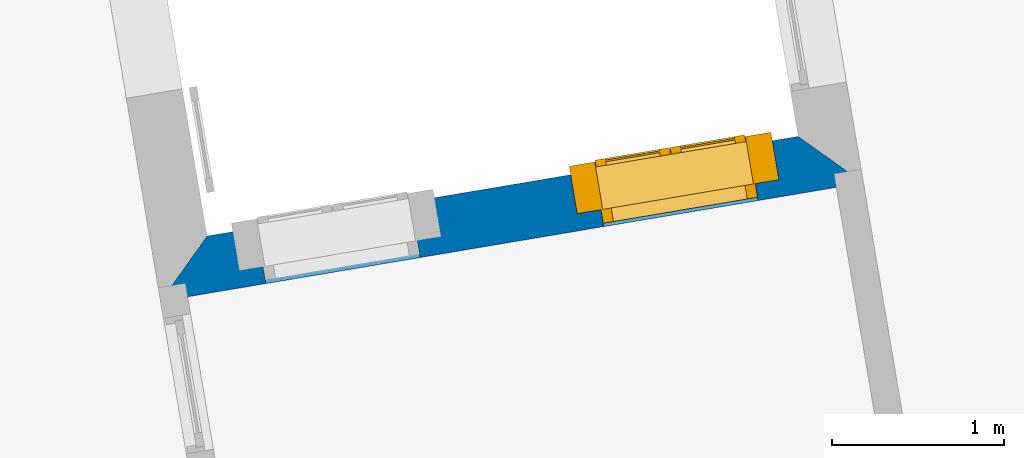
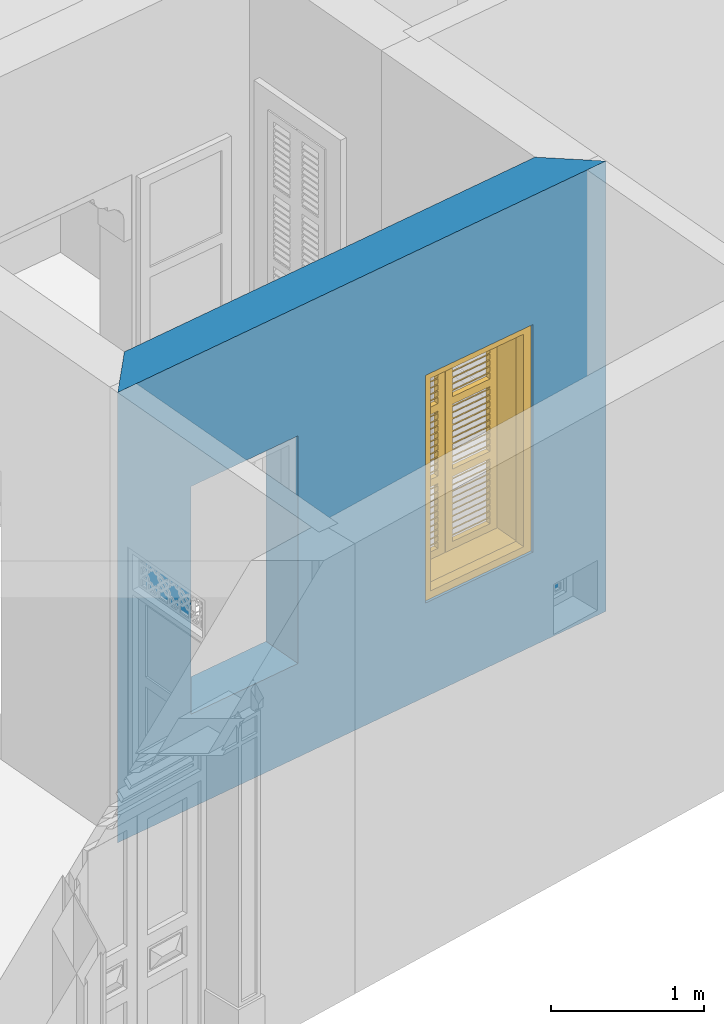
# One storey, part 6 of 15: 1 wall, 1 window, 2 openings.
"""IFC4 building model written with IfcOpenShell, lengths in metres."""

from ifc_helpers import new_model, si_unit, frame, origin, origin_with_axes, place, context, subcontext, project, spatial, polyline, outline, extrude, faceted_brep, source, transform, mapped, material, layer, layer_set, layer_usage, type_object, type_shapes, element, fill, save


model = new_model("IFC4")

# Units and contexts
model_context = context("Model", 3, world=origin_with_axes())
body_context = subcontext(model_context, "Body", "Model", "MODEL_VIEW")
ifc_project = project(units=[si_unit("PLANEANGLEUNIT", "RADIAN"), si_unit("MASSUNIT", "GRAM", prefix="KILO"), si_unit("FORCEUNIT", "NEWTON", prefix="KILO"), si_unit("LENGTHUNIT", "METRE"), si_unit("AREAUNIT", "SQUARE_METRE"), si_unit("VOLUMEUNIT", "CUBIC_METRE")], contexts=[model_context, model_context])

# Site, building, storey
site_placement = place(None, origin_with_axes())
site = spatial("IfcSite", under=ifc_project, at=site_placement, Name="Site plot-6", CompositionType="ELEMENT")
building_placement = place(None, origin_with_axes())
building = spatial("IfcBuilding", under=site, at=building_placement, Name="Building plot-6", CompositionType="ELEMENT")
storey_placement = place(None, origin_with_axes())
storey = spatial("IfcBuildingStorey", under=building, at=storey_placement, Name="plot-6 0", CompositionType="ELEMENT", Elevation=0.0)

# Wall, openings, window
ifc_material = material(Name="Masonry")
ifc_layer = layer(ifc_material, 0.33, ventilated=False)
ifc_layer_set = layer_set([ifc_layer], Name="exterior_0.08_0.25")
ifc_layer_usage = layer_usage(ifc_layer_set, "AXIS2", "POSITIVE", -0.25)
wall_type = type_object("IfcWallType", Name="exterior_0.08_0.25", PredefinedType="SOLIDWALL", material=ifc_layer_set)
wall_placement = place(storey_placement, frame((-2.44228456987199, -0.0610171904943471, 0.0), z_axis=(0.0, 0.0, 1.0), x_axis=(-0.986076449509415, -0.166292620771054, 0.0)))
wall = element("IfcWall", 1, at=wall_placement, inside=storey, type_object=wall_type, material=ifc_layer_usage, Name="exterior", context=body_context, shape_type="SweptSolid", body=[
    extrude(outline(polyline([(-0.0799999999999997, 0.080000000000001), (0.249999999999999, -0.250000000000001), (3.73805094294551, -0.250000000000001), (4.06805094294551, 0.0799999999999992), (-0.0799999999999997, 0.080000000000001)])), origin_with_axes(), (0.0, 0.0, 1.0), 3.6),
])
opening_1_placement = place(wall_placement, frame((0.542012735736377, 0.0, 0.75)))
opening_1 = element("IfcOpeningElement", 2, at=opening_1_placement, cuts=wall, Name="My Opening", ObjectType="Opening", context=body_context, shape_type="SweptSolid", body=[
    extrude(outline(polyline([(0.0, -0.27), (0.91, -0.27), (0.91, 1.1), (0.0, 1.1), (0.0, -0.27)])), origin_with_axes(), (0.0, 0.0, 1.0), 1.82),
])
opening_2_placement = place(wall_placement, frame((2.53603820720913, 0.0, 0.75)))
element("IfcOpeningElement", 3, at=opening_2_placement, cuts=wall, Name="My Opening", ObjectType="Opening", context=body_context, shape_type="SweptSolid", body=[
    extrude(outline(polyline([(0.0, -0.27), (0.91, -0.27), (0.91, 1.1), (4.44089209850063e-16, 1.1), (0.0, -0.27)])), origin_with_axes(), (0.0, 0.0, 1.0), 1.82),
])
window_type = type_object("IfcWindowType", Name="shuttered_big", PartitioningType="DOUBLE_PANEL_HORIZONTAL", PredefinedType="NOTDEFINED")
shared_shape = source(origin(), body_context, "Body", "Brep", [
    faceted_brep([(0.074, 0.0, 0.810667), (0.393, 0.0, 0.810667), (0.393, 0.0, 0.800667), (0.074, 0.0, 0.800667), (0.074, -0.04, 0.770667), (0.393, -0.04, 0.770667), (0.393, -0.04, 0.760667), (0.074, -0.04, 0.760667), (0.517, 0.0, 0.232), (0.836, 0.0, 0.232), (0.836, 0.0, 0.222), (0.517, 0.0, 0.222), (0.517, -0.04, 0.192), (0.836, -0.04, 0.192), (0.836, -0.04, 0.182), (0.517, -0.04, 0.182), (0.517, 0.0, 0.532), (0.836, 0.0, 0.532), (0.836, 0.0, 0.522), (0.517, 0.0, 0.522), (0.517, -0.04, 0.492), (0.836, -0.04, 0.492), (0.836, -0.04, 0.482), (0.517, -0.04, 0.482), (0.517, 0.0, 0.482), (0.836, 0.0, 0.482), (0.836, 0.0, 0.472), (0.517, 0.0, 0.472), (0.517, -0.04, 0.442), (0.836, -0.04, 0.442), (0.836, -0.04, 0.432), (0.517, -0.04, 0.432), (0.517, 0.0, 0.582), (0.836, 0.0, 0.582), (0.836, 0.0, 0.572), (0.517, 0.0, 0.572), (0.517, -0.04, 0.542), (0.836, -0.04, 0.542), (0.836, -0.04, 0.532), (0.517, -0.04, 0.532), (0.517, 0.0, 0.182), (0.836, 0.0, 0.182), (0.836, 0.0, 0.172), (0.517, 0.0, 0.172), (0.517, -0.04, 0.142), (0.836, -0.04, 0.142), (0.836, -0.04, 0.132), (0.517, -0.04, 0.132), (0.517, 0.0, 0.382), (0.836, 0.0, 0.382), (0.836, 0.0, 0.372), (0.517, 0.0, 0.372), (0.517, -0.04, 0.342), (0.836, -0.04, 0.342), (0.836, -0.04, 0.332), (0.517, -0.04, 0.332), (0.517, 0.0, 0.432), (0.836, 0.0, 0.432), (0.836, 0.0, 0.422), (0.517, 0.0, 0.422), (0.517, -0.04, 0.392), (0.836, -0.04, 0.392), (0.836, -0.04, 0.382), (0.517, -0.04, 0.382), (0.517, 0.0, 0.132), (0.836, 0.0, 0.132), (0.836, 0.0, 0.122), (0.517, 0.0, 0.122), (0.517, -0.04, 0.092), (0.836, -0.04, 0.092), (0.836, -0.04, 0.082), (0.517, -0.04, 0.082), (0.517, 0.0, 0.282), (0.836, 0.0, 0.282), (0.836, 0.0, 0.272), (0.517, 0.0, 0.272), (0.517, -0.04, 0.242), (0.836, -0.04, 0.242), (0.836, -0.04, 0.232), (0.517, -0.04, 0.232), (0.517, 0.0, 0.332), (0.836, 0.0, 0.332), (0.836, 0.0, 0.322), (0.517, 0.0, 0.322), (0.517, -0.04, 0.292), (0.836, -0.04, 0.292), (0.836, -0.04, 0.282), (0.517, -0.04, 0.282), (0.517, 0.0, 0.810667), (0.836, 0.0, 0.810667), (0.836, 0.0, 0.800667), (0.517, 0.0, 0.800667), (0.517, -0.04, 0.770667), (0.836, -0.04, 0.770667), (0.836, -0.04, 0.760667), (0.517, -0.04, 0.760667), (0.517, 0.0, 1.110667), (0.836, 0.0, 1.110667), (0.836, 0.0, 1.100667), (0.517, 0.0, 1.100667), (0.517, -0.04, 1.070667), (0.836, -0.04, 1.070667), (0.836, -0.04, 1.060667), (0.517, -0.04, 1.060667), (0.517, 0.0, 1.060667), (0.836, 0.0, 1.060667), (0.836, 0.0, 1.050667), (0.517, 0.0, 1.050667), (0.517, -0.04, 1.020667), (0.836, -0.04, 1.020667), (0.836, -0.04, 1.010667), (0.517, -0.04, 1.010667), (0.517, 0.0, 1.160667), (0.836, 0.0, 1.160667), (0.836, 0.0, 1.150667), (0.517, 0.0, 1.150667), (0.517, -0.04, 1.120667), (0.836, -0.04, 1.120667), (0.836, -0.04, 1.110667), (0.517, -0.04, 1.110667), (0.517, 0.0, 0.760667), (0.836, 0.0, 0.760667), (0.836, 0.0, 0.750667), (0.517, 0.0, 0.750667), (0.517, -0.04, 0.720667), (0.836, -0.04, 0.720667), (0.836, -0.04, 0.710667), (0.517, -0.04, 0.710667), (0.517, 0.0, 0.960667), (0.836, 0.0, 0.960667), (0.836, 0.0, 0.950667), (0.517, 0.0, 0.950667), (0.517, -0.04, 0.920667), (0.836, -0.04, 0.920667), (0.836, -0.04, 0.910667), (0.517, -0.04, 0.910667), (0.517, 0.0, 1.010667), (0.836, 0.0, 1.010667), (0.836, 0.0, 1.0), (0.517, 0.0, 1.0), (0.517, -0.04, 0.970667), (0.836, -0.04, 0.970667), (0.836, -0.04, 0.960667), (0.517, -0.04, 0.960667), (0.517, 0.0, 0.710667), (0.836, 0.0, 0.710667), (0.836, 0.0, 0.700667), (0.517, 0.0, 0.700667), (0.517, -0.04, 0.670667), (0.836, -0.04, 0.670667), (0.836, -0.04, 0.660667), (0.517, -0.04, 0.660667), (0.517, 0.0, 0.860667), (0.836, 0.0, 0.860667), (0.836, 0.0, 0.850667), (0.517, 0.0, 0.850667), (0.517, -0.04, 0.820667), (0.836, -0.04, 0.820667), (0.836, -0.04, 0.810667), (0.517, -0.04, 0.810667), (0.517, 0.0, 0.910667), (0.836, 0.0, 0.910667), (0.836, 0.0, 0.900667), (0.517, 0.0, 0.900667), (0.517, -0.04, 0.870667), (0.836, -0.04, 0.870667), (0.836, -0.04, 0.860667), (0.517, -0.04, 0.860667), (0.517, 0.0, 1.389333), (0.836, 0.0, 1.389333), (0.836, 0.0, 1.379333), (0.517, 0.0, 1.379333), (0.517, -0.04, 1.349333), (0.836, -0.04, 1.349333), (0.836, -0.04, 1.339333), (0.517, -0.04, 1.339333), (0.517, 0.0, 1.689333), (0.836, 0.0, 1.689333), (0.836, 0.0, 1.679333), (0.517, 0.0, 1.679333), (0.517, -0.04, 1.649333), (0.836, -0.04, 1.649333), (0.836, -0.04, 1.639333), (0.517, -0.04, 1.639333), (0.517, 0.0, 1.639333), (0.836, 0.0, 1.639333), (0.836, 0.0, 1.629333), (0.517, 0.0, 1.629333), (0.517, -0.04, 1.599333), (0.836, -0.04, 1.599333), (0.836, -0.04, 1.589333), (0.517, -0.04, 1.589333), (0.517, 0.0, 1.739333), (0.836, 0.0, 1.739333), (0.836, 0.0, 1.729333), (0.517, 0.0, 1.729333), (0.517, -0.04, 1.699333), (0.836, -0.04, 1.699333), (0.836, -0.04, 1.689333), (0.517, -0.04, 1.689333), (0.517, 0.0, 1.339333), (0.836, 0.0, 1.339333), (0.836, 0.0, 1.329333), (0.517, 0.0, 1.329333), (0.517, -0.04, 1.299333), (0.836, -0.04, 1.299333), (0.836, -0.04, 1.289333), (0.517, -0.04, 1.289333), (0.517, 0.0, 1.539333), (0.836, 0.0, 1.539333), (0.836, 0.0, 1.529333), (0.517, 0.0, 1.529333), (0.517, -0.04, 1.499333), (0.836, -0.04, 1.499333), (0.836, -0.04, 1.489333), (0.517, -0.04, 1.489333), (0.517, 0.0, 1.589333), (0.836, 0.0, 1.589333), (0.836, 0.0, 1.579333), (0.517, 0.0, 1.579333), (0.517, -0.04, 1.549333), (0.836, -0.04, 1.549333), (0.836, -0.04, 1.539333), (0.517, -0.04, 1.539333), (0.517, 0.0, 1.289333), (0.836, 0.0, 1.289333), (0.836, 0.0, 1.279333), (0.517, 0.0, 1.279333), (0.517, -0.04, 1.249333), (0.836, -0.04, 1.249333), (0.836, -0.04, 1.239333), (0.517, -0.04, 1.239333), (0.517, 0.0, 1.439333), (0.836, 0.0, 1.439333), (0.836, 0.0, 1.429333), (0.517, 0.0, 1.429333), (0.517, -0.04, 1.399333), (0.836, -0.04, 1.399333), (0.836, -0.04, 1.389333), (0.517, -0.04, 1.389333), (0.517, 0.0, 1.489333), (0.836, 0.0, 1.489333), (0.836, 0.0, 1.479333), (0.517, 0.0, 1.479333), (0.517, -0.04, 1.449333), (0.836, -0.04, 1.449333), (0.836, -0.04, 1.439333), (0.517, -0.04, 1.439333), (0.074, 0.0, 0.232), (0.393, 0.0, 0.232), (0.393, 0.0, 0.222), (0.074, 0.0, 0.222), (0.074, -0.04, 0.192), (0.393, -0.04, 0.192), (0.393, -0.04, 0.182), (0.074, -0.04, 0.182), (0.074, 0.0, 0.532), (0.393, 0.0, 0.532), (0.393, 0.0, 0.522), (0.074, 0.0, 0.522), (0.074, -0.04, 0.492), (0.393, -0.04, 0.492), (0.393, -0.04, 0.482), (0.074, -0.04, 0.482), (0.074, 0.0, 0.482), (0.393, 0.0, 0.482), (0.393, 0.0, 0.472), (0.074, 0.0, 0.472), (0.074, -0.04, 0.442), (0.393, -0.04, 0.442), (0.393, -0.04, 0.432), (0.074, -0.04, 0.432), (0.074, 0.0, 0.582), (0.393, 0.0, 0.582), (0.393, 0.0, 0.572), (0.074, 0.0, 0.572), (0.074, -0.04, 0.542), (0.393, -0.04, 0.542), (0.393, -0.04, 0.532), (0.074, -0.04, 0.532), (0.074, 0.0, 0.182), (0.393, 0.0, 0.182), (0.393, 0.0, 0.172), (0.074, 0.0, 0.172), (0.074, -0.04, 0.142), (0.393, -0.04, 0.142), (0.393, -0.04, 0.132), (0.074, -0.04, 0.132), (0.074, 0.0, 0.382), (0.393, 0.0, 0.382), (0.393, 0.0, 0.372), (0.074, 0.0, 0.372), (0.074, -0.04, 0.342), (0.393, -0.04, 0.342), (0.393, -0.04, 0.332), (0.074, -0.04, 0.332), (0.074, 0.0, 0.432), (0.393, 0.0, 0.432), (0.393, 0.0, 0.422), (0.074, 0.0, 0.422), (0.074, -0.04, 0.392), (0.393, -0.04, 0.392), (0.393, -0.04, 0.382), (0.074, -0.04, 0.382), (0.074, 0.0, 0.132), (0.393, 0.0, 0.132), (0.393, 0.0, 0.122), (0.074, 0.0, 0.122), (0.074, -0.04, 0.092), (0.393, -0.04, 0.092), (0.393, -0.04, 0.082), (0.074, -0.04, 0.082), (0.074, 0.0, 0.282), (0.393, 0.0, 0.282), (0.393, 0.0, 0.272), (0.074, 0.0, 0.272), (0.074, -0.04, 0.242), (0.393, -0.04, 0.242), (0.393, -0.04, 0.232), (0.074, -0.04, 0.232), (0.074, 0.0, 0.332), (0.393, 0.0, 0.332), (0.393, 0.0, 0.322), (0.074, 0.0, 0.322), (0.074, -0.04, 0.292), (0.393, -0.04, 0.292), (0.393, -0.04, 0.282), (0.074, -0.04, 0.282), (0.074, 0.0, 1.110667), (0.393, 0.0, 1.110667), (0.393, 0.0, 1.100667), (0.074, 0.0, 1.100667), (0.074, -0.04, 1.070667), (0.393, -0.04, 1.070667), (0.393, -0.04, 1.060667), (0.074, -0.04, 1.060667), (0.074, 0.0, 1.060667), (0.393, 0.0, 1.060667), (0.393, 0.0, 1.050667), (0.074, 0.0, 1.050667), (0.074, -0.04, 1.020667), (0.393, -0.04, 1.020667), (0.393, -0.04, 1.010667), (0.074, -0.04, 1.010667), (0.074, 0.0, 1.160667), (0.393, 0.0, 1.160667), (0.393, 0.0, 1.150667), (0.074, 0.0, 1.150667), (0.074, -0.04, 1.120667), (0.393, -0.04, 1.120667), (0.393, -0.04, 1.110667), (0.074, -0.04, 1.110667), (0.074, 0.0, 0.760667), (0.393, 0.0, 0.760667), (0.393, 0.0, 0.750667), (0.074, 0.0, 0.750667), (0.074, -0.04, 0.720667), (0.393, -0.04, 0.720667), (0.393, -0.04, 0.710667), (0.074, -0.04, 0.710667), (0.074, 0.0, 0.960667), (0.393, 0.0, 0.960667), (0.393, 0.0, 0.950667), (0.074, 0.0, 0.950667), (0.074, -0.04, 0.920667), (0.393, -0.04, 0.920667), (0.393, -0.04, 0.910667), (0.074, -0.04, 0.910667), (0.074, 0.0, 1.010667), (0.393, 0.0, 1.010667), (0.393, 0.0, 1.0), (0.074, 0.0, 1.0), (0.074, -0.04, 0.970667), (0.393, -0.04, 0.970667), (0.393, -0.04, 0.960667), (0.074, -0.04, 0.960667), (0.074, 0.0, 0.710667), (0.393, 0.0, 0.710667), (0.393, 0.0, 0.700667), (0.074, 0.0, 0.700667), (0.074, -0.04, 0.670667), (0.393, -0.04, 0.670667), (0.393, -0.04, 0.660667), (0.074, -0.04, 0.660667), (0.074, 0.0, 0.860667), (0.393, 0.0, 0.860667), (0.393, 0.0, 0.850667), (0.074, 0.0, 0.850667), (0.074, -0.04, 0.820667), (0.393, -0.04, 0.820667), (0.393, -0.04, 0.810667), (0.074, -0.04, 0.810667), (0.074, 0.0, 0.910667), (0.393, 0.0, 0.910667), (0.393, 0.0, 0.900667), (0.074, 0.0, 0.900667), (0.074, -0.04, 0.870667), (0.393, -0.04, 0.870667), (0.393, -0.04, 0.860667), (0.074, -0.04, 0.860667), (0.074, 0.0, 1.389333), (0.393, 0.0, 1.389333), (0.393, 0.0, 1.379333), (0.074, 0.0, 1.379333), (0.074, -0.04, 1.349333), (0.393, -0.04, 1.349333), (0.393, -0.04, 1.339333), (0.074, -0.04, 1.339333), (0.074, 0.0, 1.689333), (0.393, 0.0, 1.689333), (0.393, 0.0, 1.679333), (0.074, 0.0, 1.679333), (0.074, -0.04, 1.649333), (0.393, -0.04, 1.649333), (0.393, -0.04, 1.639333), (0.074, -0.04, 1.639333), (0.074, 0.0, 1.639333), (0.393, 0.0, 1.639333), (0.393, 0.0, 1.629333), (0.074, 0.0, 1.629333), (0.074, -0.04, 1.599333), (0.393, -0.04, 1.599333), (0.393, -0.04, 1.589333), (0.074, -0.04, 1.589333), (0.074, 0.0, 1.739333), (0.393, 0.0, 1.739333), (0.393, 0.0, 1.729333), (0.074, 0.0, 1.729333), (0.074, -0.04, 1.699333), (0.393, -0.04, 1.699333), (0.393, -0.04, 1.689333), (0.074, -0.04, 1.689333), (0.074, 0.0, 1.339333), (0.393, 0.0, 1.339333), (0.393, 0.0, 1.329333), (0.074, 0.0, 1.329333), (0.074, -0.04, 1.299333), (0.393, -0.04, 1.299333), (0.393, -0.04, 1.289333), (0.074, -0.04, 1.289333), (0.074, 0.0, 1.539333), (0.393, 0.0, 1.539333), (0.393, 0.0, 1.529333), (0.074, 0.0, 1.529333), (0.074, -0.04, 1.499333), (0.393, -0.04, 1.499333), (0.393, -0.04, 1.489333), (0.074, -0.04, 1.489333), (0.074, 0.0, 1.589333), (0.393, 0.0, 1.589333), (0.393, 0.0, 1.579333), (0.074, 0.0, 1.579333), (0.074, -0.04, 1.549333), (0.393, -0.04, 1.549333), (0.393, -0.04, 1.539333), (0.074, -0.04, 1.539333), (0.074, 0.0, 1.289333), (0.393, 0.0, 1.289333), (0.393, 0.0, 1.279333), (0.074, 0.0, 1.279333), (0.074, -0.04, 1.249333), (0.393, -0.04, 1.249333), (0.393, -0.04, 1.239333), (0.074, -0.04, 1.239333), (0.074, 0.0, 1.439333), (0.393, 0.0, 1.439333), (0.393, 0.0, 1.429333), (0.074, 0.0, 1.429333), (0.074, -0.04, 1.399333), (0.393, -0.04, 1.399333), (0.393, -0.04, 1.389333), (0.074, -0.04, 1.389333), (0.074, 0.0, 1.489333), (0.393, 0.0, 1.489333), (0.393, 0.0, 1.479333), (0.074, 0.0, 1.479333), (0.074, -0.04, 1.449333), (0.393, -0.04, 1.449333), (0.393, -0.04, 1.439333), (0.074, -0.04, 1.439333), (0.517, -0.04, 0.072), (0.457, -0.04, 0.012), (0.896, -0.04, 0.012), (0.836, -0.04, 0.072), (0.457, -0.04, 0.590667), (0.517, -0.04, 0.590667), (0.457, 0.0, 0.012), (0.896, 0.0, 0.012), (0.836, -0.04, 0.590667), (0.896, -0.04, 0.590667), (0.836, 0.0, 0.072), (0.517, 0.0, 0.072), (0.457, 0.0, 0.590667), (0.517, 0.0, 0.590667), (0.517, -0.04, 0.650667), (0.457, -0.04, 0.650667), (0.896, 0.0, 0.590667), (0.836, 0.0, 0.590667), (0.836, -0.04, 0.650667), (0.896, -0.04, 0.650667), (0.457, 0.0, 0.650667), (0.457, -0.04, 1.169333), (0.517, -0.04, 1.169333), (0.896, 0.0, 0.650667), (0.836, -0.04, 1.169333), (0.896, -0.04, 1.169333), (0.457, 0.0, 1.169333), (0.517, 0.0, 0.650667), (0.836, 0.0, 0.650667), (0.517, 0.0, 1.169333), (0.517, -0.04, 1.229333), (0.457, -0.04, 1.229333), (0.896, 0.0, 1.169333), (0.836, 0.0, 1.169333), (0.836, -0.04, 1.229333), (0.896, -0.04, 1.229333), (0.457, 0.0, 1.229333), (0.517, -0.04, 1.748), (0.457, -0.04, 1.808), (0.896, 0.0, 1.229333), (0.896, -0.04, 1.808), (0.836, -0.04, 1.748), (0.457, 0.0, 1.808), (0.517, 0.0, 1.229333), (0.836, 0.0, 1.229333), (0.517, 0.0, 1.748), (0.896, 0.0, 1.808), (0.836, 0.0, 1.748), (0.074, -0.04, 0.072), (0.014, -0.04, 0.012), (0.453, -0.04, 0.012), (0.393, -0.04, 0.072), (0.014, -0.04, 0.590667), (0.074, -0.04, 0.590667), (0.014, 0.0, 0.012), (0.453, 0.0, 0.012), (0.393, -0.04, 0.590667), (0.453, -0.04, 0.590667), (0.393, 0.0, 0.072), (0.074, 0.0, 0.072), (0.014, 0.0, 0.590667), (0.074, 0.0, 0.590667), (0.074, -0.04, 0.650667), (0.014, -0.04, 0.650667), (0.453, 0.0, 0.590667), (0.393, 0.0, 0.590667), (0.393, -0.04, 0.650667), (0.453, -0.04, 0.650667), (0.014, 0.0, 0.650667), (0.014, -0.04, 1.169333), (0.074, -0.04, 1.169333), (0.453, 0.0, 0.650667), (0.393, -0.04, 1.169333), (0.453, -0.04, 1.169333), (0.014, 0.0, 1.169333), (0.074, 0.0, 0.650667), (0.393, 0.0, 0.650667), (0.074, 0.0, 1.169333), (0.074, -0.04, 1.229333), (0.014, -0.04, 1.229333), (0.453, 0.0, 1.169333), (0.393, 0.0, 1.169333), (0.393, -0.04, 1.229333), (0.453, -0.04, 1.229333), (0.014, 0.0, 1.229333), (0.074, -0.04, 1.748), (0.014, -0.04, 1.808), (0.453, 0.0, 1.229333), (0.453, -0.04, 1.808), (0.393, -0.04, 1.748), (0.014, 0.0, 1.808), (0.074, 0.0, 1.229333), (0.393, 0.0, 1.229333), (0.074, 0.0, 1.748), (0.453, 0.0, 1.808), (0.393, 0.0, 1.748), (0.0, 0.33, 1.82), (0.91, 0.33, 1.82), (0.85, 0.33, 1.76), (0.06, 0.33, 1.76), (1.05, -0.03, 1.96), (1.05, 0.25, 1.96), (-0.14, 0.25, 1.96), (-0.14, -0.03, 1.96), (0.0, 0.25, 1.82), (0.91, 0.25, 1.82), (0.9, 0.25, 1.81), (0.01, 0.25, 1.81), (0.85, 0.33, 0.06), (0.91, 0.33, 0.0), (0.85, 0.25, 1.76), (0.06, 0.25, 1.76), (0.0, 0.33, 0.0), (0.06, 0.33, 0.06), (0.0, 0.25, 0.0), (0.910046, 0.25, 1.82), (0.91, 0.25, 0.0), (0.85, 0.25, 0.06), (0.06, 0.25, 0.06), (0.9, 0.25, 0.01), (0.9, -0.03, 0.01), (0.9, -0.03, 1.81), (0.01, -0.03, 0.01), (-0.14, -0.03, -0.14), (1.05, -0.03, -0.14), (0.01, -0.03, 1.81), (0.01, 0.25, 0.01), (1.05, 0.25, -0.14), (-0.14, 0.25, -0.14)], [[[0, 1, 2, 3]], [[1, 0, 4, 5]], [[2, 1, 5, 6]], [[6, 7, 3, 2]], [[7, 4, 0, 3]], [[5, 4, 7, 6]], [[8, 9, 10, 11]], [[12, 13, 9, 8]], [[13, 14, 10, 9]], [[14, 15, 11, 10]], [[15, 12, 8, 11]], [[13, 12, 15, 14]], [[16, 17, 18, 19]], [[20, 21, 17, 16]], [[21, 22, 18, 17]], [[22, 23, 19, 18]], [[23, 20, 16, 19]], [[21, 20, 23, 22]], [[24, 25, 26, 27]], [[28, 29, 25, 24]], [[29, 30, 26, 25]], [[30, 31, 27, 26]], [[31, 28, 24, 27]], [[29, 28, 31, 30]], [[32, 33, 34, 35]], [[36, 37, 33, 32]], [[37, 38, 34, 33]], [[38, 39, 35, 34]], [[39, 36, 32, 35]], [[37, 36, 39, 38]], [[40, 41, 42, 43]], [[44, 45, 41, 40]], [[45, 46, 42, 41]], [[46, 47, 43, 42]], [[47, 44, 40, 43]], [[45, 44, 47, 46]], [[48, 49, 50, 51]], [[52, 53, 49, 48]], [[53, 54, 50, 49]], [[54, 55, 51, 50]], [[55, 52, 48, 51]], [[53, 52, 55, 54]], [[56, 57, 58, 59]], [[60, 61, 57, 56]], [[61, 62, 58, 57]], [[62, 63, 59, 58]], [[63, 60, 56, 59]], [[61, 60, 63, 62]], [[64, 65, 66, 67]], [[68, 69, 65, 64]], [[69, 70, 66, 65]], [[70, 71, 67, 66]], [[71, 68, 64, 67]], [[69, 68, 71, 70]], [[72, 73, 74, 75]], [[76, 77, 73, 72]], [[77, 78, 74, 73]], [[78, 79, 75, 74]], [[79, 76, 72, 75]], [[77, 76, 79, 78]], [[80, 81, 82, 83]], [[84, 85, 81, 80]], [[85, 86, 82, 81]], [[86, 87, 83, 82]], [[87, 84, 80, 83]], [[85, 84, 87, 86]], [[88, 89, 90, 91]], [[92, 93, 89, 88]], [[93, 94, 90, 89]], [[94, 95, 91, 90]], [[95, 92, 88, 91]], [[93, 92, 95, 94]], [[96, 97, 98, 99]], [[100, 101, 97, 96]], [[101, 102, 98, 97]], [[102, 103, 99, 98]], [[103, 100, 96, 99]], [[101, 100, 103, 102]], [[104, 105, 106, 107]], [[108, 109, 105, 104]], [[109, 110, 106, 105]], [[110, 111, 107, 106]], [[111, 108, 104, 107]], [[109, 108, 111, 110]], [[112, 113, 114, 115]], [[116, 117, 113, 112]], [[117, 118, 114, 113]], [[118, 119, 115, 114]], [[119, 116, 112, 115]], [[117, 116, 119, 118]], [[120, 121, 122, 123]], [[124, 125, 121, 120]], [[125, 126, 122, 121]], [[126, 127, 123, 122]], [[127, 124, 120, 123]], [[125, 124, 127, 126]], [[128, 129, 130, 131]], [[132, 133, 129, 128]], [[133, 134, 130, 129]], [[134, 135, 131, 130]], [[135, 132, 128, 131]], [[133, 132, 135, 134]], [[136, 137, 138, 139]], [[140, 141, 137, 136]], [[141, 142, 138, 137]], [[142, 143, 139, 138]], [[143, 140, 136, 139]], [[141, 140, 143, 142]], [[144, 145, 146, 147]], [[148, 149, 145, 144]], [[149, 150, 146, 145]], [[150, 151, 147, 146]], [[151, 148, 144, 147]], [[149, 148, 151, 150]], [[152, 153, 154, 155]], [[156, 157, 153, 152]], [[157, 158, 154, 153]], [[158, 159, 155, 154]], [[159, 156, 152, 155]], [[157, 156, 159, 158]], [[160, 161, 162, 163]], [[164, 165, 161, 160]], [[165, 166, 162, 161]], [[166, 167, 163, 162]], [[167, 164, 160, 163]], [[165, 164, 167, 166]], [[168, 169, 170, 171]], [[172, 173, 169, 168]], [[173, 174, 170, 169]], [[174, 175, 171, 170]], [[175, 172, 168, 171]], [[173, 172, 175, 174]], [[176, 177, 178, 179]], [[180, 181, 177, 176]], [[181, 182, 178, 177]], [[182, 183, 179, 178]], [[183, 180, 176, 179]], [[181, 180, 183, 182]], [[184, 185, 186, 187]], [[188, 189, 185, 184]], [[189, 190, 186, 185]], [[190, 191, 187, 186]], [[191, 188, 184, 187]], [[189, 188, 191, 190]], [[192, 193, 194, 195]], [[196, 197, 193, 192]], [[197, 198, 194, 193]], [[198, 199, 195, 194]], [[199, 196, 192, 195]], [[197, 196, 199, 198]], [[200, 201, 202, 203]], [[204, 205, 201, 200]], [[205, 206, 202, 201]], [[206, 207, 203, 202]], [[207, 204, 200, 203]], [[205, 204, 207, 206]], [[208, 209, 210, 211]], [[212, 213, 209, 208]], [[213, 214, 210, 209]], [[214, 215, 211, 210]], [[215, 212, 208, 211]], [[213, 212, 215, 214]], [[216, 217, 218, 219]], [[220, 221, 217, 216]], [[221, 222, 218, 217]], [[222, 223, 219, 218]], [[223, 220, 216, 219]], [[221, 220, 223, 222]], [[224, 225, 226, 227]], [[228, 229, 225, 224]], [[229, 230, 226, 225]], [[230, 231, 227, 226]], [[231, 228, 224, 227]], [[229, 228, 231, 230]], [[232, 233, 234, 235]], [[236, 237, 233, 232]], [[237, 238, 234, 233]], [[238, 239, 235, 234]], [[239, 236, 232, 235]], [[237, 236, 239, 238]], [[240, 241, 242, 243]], [[244, 245, 241, 240]], [[245, 246, 242, 241]], [[246, 247, 243, 242]], [[247, 244, 240, 243]], [[245, 244, 247, 246]], [[248, 249, 250, 251]], [[252, 253, 249, 248]], [[253, 254, 250, 249]], [[254, 255, 251, 250]], [[255, 252, 248, 251]], [[253, 252, 255, 254]], [[256, 257, 258, 259]], [[260, 261, 257, 256]], [[261, 262, 258, 257]], [[262, 263, 259, 258]], [[263, 260, 256, 259]], [[261, 260, 263, 262]], [[264, 265, 266, 267]], [[268, 269, 265, 264]], [[269, 270, 266, 265]], [[270, 271, 267, 266]], [[271, 268, 264, 267]], [[269, 268, 271, 270]], [[272, 273, 274, 275]], [[276, 277, 273, 272]], [[277, 278, 274, 273]], [[278, 279, 275, 274]], [[279, 276, 272, 275]], [[277, 276, 279, 278]], [[280, 281, 282, 283]], [[284, 285, 281, 280]], [[285, 286, 282, 281]], [[286, 287, 283, 282]], [[287, 284, 280, 283]], [[285, 284, 287, 286]], [[288, 289, 290, 291]], [[292, 293, 289, 288]], [[293, 294, 290, 289]], [[294, 295, 291, 290]], [[295, 292, 288, 291]], [[293, 292, 295, 294]], [[296, 297, 298, 299]], [[300, 301, 297, 296]], [[301, 302, 298, 297]], [[302, 303, 299, 298]], [[303, 300, 296, 299]], [[301, 300, 303, 302]], [[304, 305, 306, 307]], [[308, 309, 305, 304]], [[309, 310, 306, 305]], [[310, 311, 307, 306]], [[311, 308, 304, 307]], [[309, 308, 311, 310]], [[312, 313, 314, 315]], [[316, 317, 313, 312]], [[317, 318, 314, 313]], [[318, 319, 315, 314]], [[319, 316, 312, 315]], [[317, 316, 319, 318]], [[320, 321, 322, 323]], [[324, 325, 321, 320]], [[325, 326, 322, 321]], [[326, 327, 323, 322]], [[327, 324, 320, 323]], [[325, 324, 327, 326]], [[328, 329, 330, 331]], [[332, 333, 329, 328]], [[333, 334, 330, 329]], [[334, 335, 331, 330]], [[335, 332, 328, 331]], [[333, 332, 335, 334]], [[336, 337, 338, 339]], [[340, 341, 337, 336]], [[341, 342, 338, 337]], [[342, 343, 339, 338]], [[343, 340, 336, 339]], [[341, 340, 343, 342]], [[344, 345, 346, 347]], [[348, 349, 345, 344]], [[349, 350, 346, 345]], [[350, 351, 347, 346]], [[351, 348, 344, 347]], [[349, 348, 351, 350]], [[352, 353, 354, 355]], [[356, 357, 353, 352]], [[357, 358, 354, 353]], [[358, 359, 355, 354]], [[359, 356, 352, 355]], [[357, 356, 359, 358]], [[360, 361, 362, 363]], [[364, 365, 361, 360]], [[365, 366, 362, 361]], [[366, 367, 363, 362]], [[367, 364, 360, 363]], [[366, 365, 364, 367]], [[368, 369, 370, 371]], [[372, 373, 369, 368]], [[373, 374, 370, 369]], [[374, 375, 371, 370]], [[375, 372, 368, 371]], [[373, 372, 375, 374]], [[376, 377, 378, 379]], [[380, 381, 377, 376]], [[381, 382, 378, 377]], [[382, 383, 379, 378]], [[383, 380, 376, 379]], [[381, 380, 383, 382]], [[384, 385, 386, 387]], [[388, 389, 385, 384]], [[389, 390, 386, 385]], [[390, 391, 387, 386]], [[391, 388, 384, 387]], [[389, 388, 391, 390]], [[392, 393, 394, 395]], [[396, 397, 393, 392]], [[397, 398, 394, 393]], [[398, 399, 395, 394]], [[399, 396, 392, 395]], [[397, 396, 399, 398]], [[400, 401, 402, 403]], [[404, 405, 401, 400]], [[405, 406, 402, 401]], [[406, 407, 403, 402]], [[407, 404, 400, 403]], [[405, 404, 407, 406]], [[408, 409, 410, 411]], [[412, 413, 409, 408]], [[413, 414, 410, 409]], [[414, 415, 411, 410]], [[415, 412, 408, 411]], [[414, 413, 412, 415]], [[416, 417, 418, 419]], [[420, 421, 417, 416]], [[421, 422, 418, 417]], [[422, 423, 419, 418]], [[423, 420, 416, 419]], [[421, 420, 423, 422]], [[424, 425, 426, 427]], [[428, 429, 425, 424]], [[429, 430, 426, 425]], [[430, 431, 427, 426]], [[431, 428, 424, 427]], [[429, 428, 431, 430]], [[432, 433, 434, 435]], [[436, 437, 433, 432]], [[437, 438, 434, 433]], [[438, 439, 435, 434]], [[439, 436, 432, 435]], [[437, 436, 439, 438]], [[440, 441, 442, 443]], [[444, 445, 441, 440]], [[445, 446, 442, 441]], [[446, 447, 443, 442]], [[447, 444, 440, 443]], [[445, 444, 447, 446]], [[448, 449, 450, 451]], [[452, 453, 449, 448]], [[453, 454, 450, 449]], [[454, 455, 451, 450]], [[455, 452, 448, 451]], [[453, 452, 455, 454]], [[456, 457, 458, 459]], [[460, 461, 457, 456]], [[461, 462, 458, 457]], [[462, 463, 459, 458]], [[463, 460, 456, 459]], [[461, 460, 463, 462]], [[464, 465, 466, 467]], [[468, 469, 465, 464]], [[469, 470, 466, 465]], [[470, 471, 467, 466]], [[471, 468, 464, 467]], [[469, 468, 471, 470]], [[472, 473, 474, 475]], [[476, 477, 473, 472]], [[477, 478, 474, 473]], [[478, 479, 475, 474]], [[479, 476, 472, 475]], [[477, 476, 479, 478]], [[480, 481, 482, 483]], [[484, 481, 480, 485]], [[486, 487, 482, 481]], [[488, 483, 482, 489]], [[480, 483, 490, 491]], [[486, 481, 484, 492]], [[485, 480, 491, 493]], [[485, 494, 495, 484]], [[486, 491, 490, 487]], [[496, 489, 482, 487]], [[483, 488, 497, 490]], [[498, 488, 489, 499]], [[492, 484, 495, 500]], [[486, 492, 493, 491]], [[488, 485, 493, 497]], [[494, 485, 488, 498]], [[501, 495, 494, 502]], [[490, 497, 496, 487]], [[503, 499, 489, 496]], [[504, 498, 499, 505]], [[500, 495, 501, 506]], [[507, 493, 492, 500]], [[493, 507, 508, 497]], [[494, 498, 508, 507]], [[502, 494, 507, 509]], [[502, 510, 511, 501]], [[497, 508, 503, 496]], [[512, 505, 499, 503]], [[498, 504, 513, 508]], [[514, 504, 505, 515]], [[506, 501, 511, 516]], [[500, 506, 509, 507]], [[504, 502, 509, 513]], [[510, 502, 504, 514]], [[510, 517, 518, 511]], [[508, 513, 512, 503]], [[519, 515, 505, 512]], [[515, 520, 521, 514]], [[516, 511, 518, 522]], [[523, 509, 506, 516]], [[509, 523, 524, 513]], [[510, 514, 524, 523]], [[517, 510, 523, 525]], [[518, 517, 521, 520]], [[513, 524, 519, 512]], [[526, 520, 515, 519]], [[514, 521, 527, 524]], [[522, 518, 520, 526]], [[525, 523, 516, 522]], [[521, 517, 525, 527]], [[526, 519, 524, 527]], [[525, 522, 526, 527]], [[528, 529, 530, 531]], [[532, 529, 528, 533]], [[534, 535, 530, 529]], [[536, 531, 530, 537]], [[528, 531, 538, 539]], [[534, 529, 532, 540]], [[533, 528, 539, 541]], [[533, 542, 543, 532]], [[534, 539, 538, 535]], [[544, 537, 530, 535]], [[531, 536, 545, 538]], [[546, 536, 537, 547]], [[540, 532, 543, 548]], [[534, 540, 541, 539]], [[536, 533, 541, 545]], [[542, 533, 536, 546]], [[549, 543, 542, 550]], [[538, 545, 544, 535]], [[551, 547, 537, 544]], [[552, 546, 547, 553]], [[548, 543, 549, 554]], [[555, 541, 540, 548]], [[541, 555, 556, 545]], [[542, 546, 556, 555]], [[550, 542, 555, 557]], [[550, 558, 559, 549]], [[545, 556, 551, 544]], [[560, 553, 547, 551]], [[546, 552, 561, 556]], [[562, 552, 553, 563]], [[554, 549, 559, 564]], [[548, 554, 557, 555]], [[552, 550, 557, 561]], [[558, 550, 552, 562]], [[558, 565, 566, 559]], [[556, 561, 560, 551]], [[567, 563, 553, 560]], [[563, 568, 569, 562]], [[564, 559, 566, 570]], [[571, 557, 554, 564]], [[557, 571, 572, 561]], [[558, 562, 572, 571]], [[565, 558, 571, 573]], [[566, 565, 569, 568]], [[561, 572, 567, 560]], [[574, 568, 563, 567]], [[562, 569, 575, 572]], [[570, 566, 568, 574]], [[573, 571, 564, 570]], [[569, 565, 573, 575]], [[574, 567, 572, 575]], [[573, 570, 574, 575]], [[576, 577, 578, 579]], [[580, 581, 582, 583]], [[576, 584, 585, 577]], [[582, 581, 586, 587]], [[588, 578, 577, 589]], [[579, 578, 590, 591]], [[592, 576, 579, 593]], [[576, 592, 594, 584]], [[595, 584, 591, 590]], [[596, 585, 595]], [[595, 590, 597]], [[595, 597, 596]], [[589, 577, 585, 596]], [[578, 588, 597, 590]], [[589, 592, 593, 588]], [[593, 579, 591, 598]], [[592, 589, 596, 594]], [[598, 591, 584, 594]], [[594, 596, 597, 598]], [[588, 593, 598, 597]], [[599, 600, 601, 586]], [[602, 603, 604, 600]], [[601, 605, 587, 586]], [[600, 599, 606, 602]], [[607, 604, 603, 608]], [[599, 607, 608, 606]], [[605, 602, 606, 587]], [[602, 605, 583, 603]], [[600, 604, 580, 601]], [[580, 583, 605, 601]], [[606, 608, 582, 587]], [[599, 586, 581, 607]], [[582, 608, 603, 583]], [[580, 604, 607, 581]]]),
])
type_shapes(window_type, [shared_shape])
window_placement = place(storey_placement, frame((-3.02164957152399, 0.115090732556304, 0.75), z_axis=(0.0, 0.0, 1.0), x_axis=(-0.897329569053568, -0.151326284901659, 0.0)))
window = element("IfcWindow", 4, at=window_placement, inside=storey, type_object=window_type, Name="toilet sahn window", OverallHeight=1.82, OverallWidth=0.91, context=body_context, shape_type="MappedRepresentation", body=[
    mapped(shared_shape, transform((0.0, 0.0, 0.0), scale=1.0)),
])
fill(opening_1, window)

save(model, "model.ifc")
